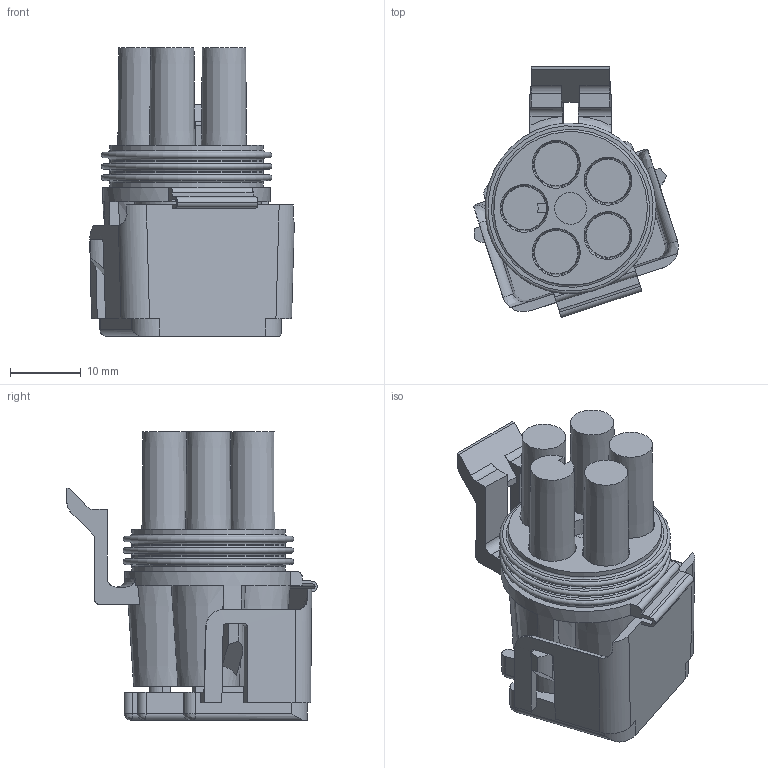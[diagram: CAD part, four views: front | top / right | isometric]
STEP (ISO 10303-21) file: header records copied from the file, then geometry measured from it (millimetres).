
FILE_DESCRIPTION(/* description */ (''),/* implementation_level */ '2;1');
FILE_NAME(/* name */ '12034342-ENV11_04-CONN.stp',/* time_stamp */ '2021-09-06T17:53:37+05:00',/* author */ (''),/* organization */ (''),/* preprocessor_version */ 'ST-DEVELOPER v16',/* originating_system */ 'SIEMENS PLM Software NX 11.0',/* authorisation */ '');
FILE_SCHEMA (('AP203_CONFIGURATION_CONTROLLED_3D_DESIGN_OF_MECHANICAL_PARTS_AND_ASSEMBLIES_MIM_LF { 1 0 10303 403 2 1 2}'));
Length unit declared in the file: millimetre
Products named in the file (1): hjcv4A68214C0bg6
Bounding box: 28.95 x 35.46 x 40.85 mm (x, y, z)
Volume: 12854.7 mm3; surface area: 7753.3 mm2
Topology: 2 solids, 3 shells, 208 faces, 547 edges, 352 vertices
Faces by surface type: plane 108, cylinder 63, cone 15, torus 12, bspline 8, revolution 2
Full cylindrical faces by diameter (mm): 4.5 x2, 21.74 x4
Entity records: 6670 total; most frequent: CARTESIAN_POINT 1500, DIRECTION 1078, ORIENTED_EDGE 1024, EDGE_CURVE 512, AXIS2_PLACEMENT_3D 397, VERTEX_POINT 342, LINE 282, VECTOR 282
